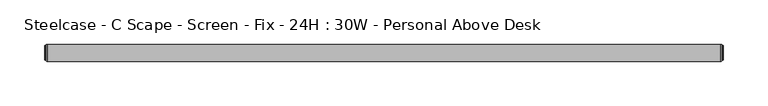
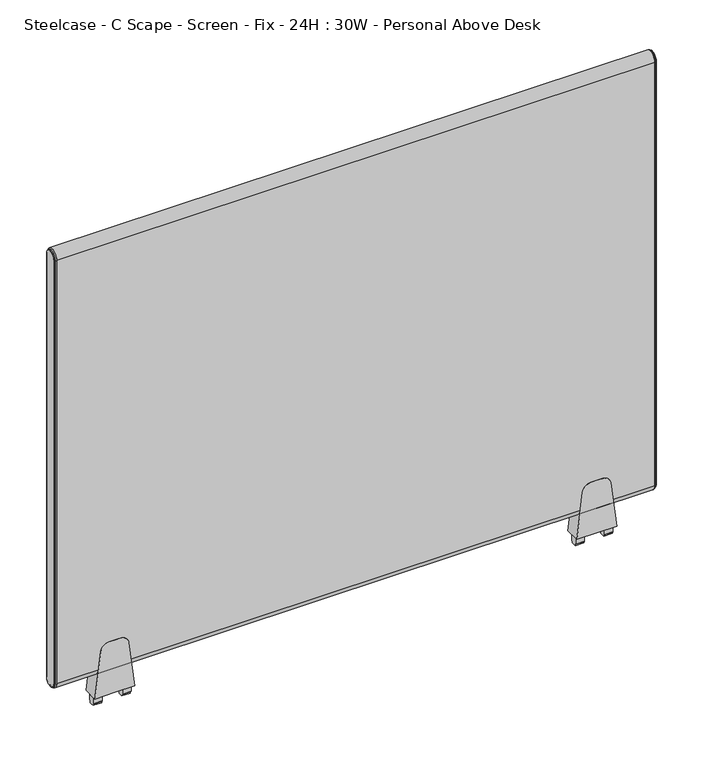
"""IFC4 building model written with IfcOpenShell, lengths in millimetres: furniture geometry, Steelcase - C Scape - Screen - Fix - 24H : 30W - Personal Above Desk."""

from ifc_helpers import new_model, si_unit, point, frame, frame_2d, origin, place, context, project, spatial, polyline, circle_curve, ellipse_curve, trimmed, segment, composite_curve, outline, extrude, source, transform, mapped, element, save
from ifc_brep_helpers import plane_surface, cylinder_surface, revolved_surface, advanced_brep


def steelcase_c_scape_screen_fix_24h_30w_personal_above_desk_dd250793(model_context):
    return source(origin(), model_context, "Body", "SolidModel", [
        extrude(outline(composite_curve([segment(polyline([(723.811112, 101.4730434), (784.1362421, 94.0661495)]), True, "CONTINUOUS"), segment(trimmed(circle_curve(frame_2d((782.8143718, 83.300233)), 10.8467645), [point((784.1362421, 94.0661495))], [point((793.6611362, 83.300233))], False, "CARTESIAN"), True, "CONTINUOUS"), segment(polyline([(793.6611362, 83.300233), (793.6611362, 76.2001674), (793.6611362, 69.1001018)]), True, "CONTINUOUS"), segment(trimmed(circle_curve(frame_2d((782.8143718, 69.1001018)), 10.8467645), [point((793.6611362, 69.1001018))], [point((784.1362421, 58.3341853))], False, "CARTESIAN"), True, "CONTINUOUS"), segment(polyline([(784.1362421, 58.3341853), (723.811112, 50.9272915), (723.811112, 76.2001674), (723.811112, 101.4730434)]), True, "CONTINUOUS")], self_intersect=False)), frame((0.0, -9.525, 0.0), z_axis=(0.0, 1.0, 0.0), x_axis=(0.0, 0.0, 1.0)), (0.0, 0.0, 1.0), 19.05),
        extrude(outline(polyline([(4.5465975, 723.811112), (4.5465975, 713.9051033), (4.0139265, 713.0186748), (2.9972008, 713.0186748), (2.9972008, 710.7834188), (0.0, 710.692), (-2.9972008, 710.7834188), (-2.9972008, 713.0186748), (-4.0139265, 713.0186748), (-4.5465975, 713.9051033), (-4.5465975, 723.811112), (0.0, 723.811112), (4.5465975, 723.811112)])), frame((88.9267162, 0.0, 0.0), z_axis=(1.0, 0.0, 0.0), x_axis=(0.0, 1.0, 0.0)), (0.0, 0.0, 1.0), 10.7813187),
        extrude(outline(polyline([(4.5465975, 723.811112), (4.5465975, 713.9051033), (4.0139265, 713.0186748), (2.9972008, 713.0186748), (2.9972008, 710.7834188), (0.0, 710.692), (-2.9972008, 710.7834188), (-2.9972008, 713.0186748), (-4.0139265, 713.0186748), (-4.5465975, 713.9051033), (-4.5465975, 723.811112), (0.0, 723.811112), (4.5465975, 723.811112)])), frame((52.6923, 0.0, 0.0), z_axis=(1.0, 0.0, 0.0), x_axis=(0.0, 1.0, 0.0)), (0.0, 0.0, 1.0), 10.7813187),
        extrude(outline(composite_curve([segment(polyline([(723.811112, 710.3107132), (784.1362421, 702.9038193)]), True, "CONTINUOUS"), segment(trimmed(circle_curve(frame_2d((782.8143718, 692.1379028)), 10.8467645), [point((784.1362421, 702.9038193))], [point((793.6611362, 692.1379028))], False, "CARTESIAN"), True, "CONTINUOUS"), segment(polyline([(793.6611362, 692.1379028), (793.6611362, 685.0378372), (793.6611362, 677.9377716)]), True, "CONTINUOUS"), segment(trimmed(circle_curve(frame_2d((782.8143718, 677.9377716)), 10.8467645), [point((793.6611362, 677.9377716))], [point((784.1362421, 667.1718551))], False, "CARTESIAN"), True, "CONTINUOUS"), segment(polyline([(784.1362421, 667.1718551), (723.811112, 659.7649612), (723.811112, 685.0378372), (723.811112, 710.3107132)]), True, "CONTINUOUS")], self_intersect=False)), frame((0.0, -9.525, 0.0), z_axis=(0.0, 1.0, 0.0), x_axis=(0.0, 0.0, 1.0)), (0.0, 0.0, 1.0), 19.05),
        extrude(outline(polyline([(4.5465975, 723.811112), (4.5465975, 713.9051033), (4.0139265, 713.0186748), (2.9972008, 713.0186748), (2.9972008, 710.7834188), (0.0, 710.692), (-2.9972008, 710.7834188), (-2.9972008, 713.0186748), (-4.0139265, 713.0186748), (-4.5465975, 713.9051033), (-4.5465975, 723.811112), (0.0, 723.811112), (4.5465975, 723.811112)])), frame((697.764386, 0.0, 0.0), z_axis=(1.0, 0.0, 0.0), x_axis=(0.0, 1.0, 0.0)), (0.0, 0.0, 1.0), 10.7813187),
        extrude(outline(polyline([(4.5465975, 723.811112), (4.5465975, 713.9051033), (4.0139265, 713.0186748), (2.9972008, 713.0186748), (2.9972008, 710.7834188), (0.0, 710.692), (-2.9972008, 710.7834188), (-2.9972008, 713.0186748), (-4.0139265, 713.0186748), (-4.5465975, 713.9051033), (-4.5465975, 723.811112), (0.0, 723.811112), (4.5465975, 723.811112)])), frame((661.5299698, 0.0, 0.0), z_axis=(1.0, 0.0, 0.0), x_axis=(0.0, 1.0, 0.0)), (0.0, 0.0, 1.0), 10.7813187),
        advanced_brep(
        [(758.4486613, -9.525, 1326.007), (758.4486613, 9.525, 1326.007), (758.4486613, 9.525, 760.857), (758.4486613, -9.525, 760.857), (761.2426613, 7.4929583, 1326.007), (761.2426613, -7.4929583, 1326.007), (761.2426613, -7.4929583, 760.857), (761.2426613, 7.4929583, 760.857), (760.7346545, -8.0009651, 1326.007), (760.7346545, 8.0009651, 1326.007), (759.4646613, 8.0009651, 1326.007), (759.4646613, -8.0009651, 1326.007), (759.4646613, -8.8204932, 1326.007), (759.4646613, 8.8204932, 1326.007), (759.4646613, -8.0009651, 760.857), (760.7346545, -8.0009651, 760.857), (759.4646613, -8.8204932, 760.857), (759.4646613, 8.0009651, 760.857), (760.7346545, 8.0009651, 760.857), (759.4646613, 8.8204932, 760.857)],
        [
            (0, 1, circle_curve(frame((758.4486613, 0.0, 1326.007), z_axis=(-1.0, 0.0, 0.0), x_axis=(0.0, 1.0, 0.0)), 9.525)),
            (1, 2),
            (2, 3, circle_curve(frame((758.4486613, 0.0, 760.857), z_axis=(-1.0, 0.0, 0.0), x_axis=(0.0, -1.0, 0.0)), 9.525)),
            (3, 0),
            (4, 5, circle_curve(frame((761.2426613, 0.0, 1326.007), z_axis=(1.0, 0.0, 0.0), x_axis=(0.0, 1.0, 0.0)), 7.4929583)),
            (5, 6),
            (6, 7, circle_curve(frame((761.2426613, 0.0, 760.857), z_axis=(1.0, 0.0, 0.0), x_axis=(0.0, -1.0, 0.0)), 7.4929583)),
            (7, 4),
            (8, 9, circle_curve(frame((760.7346545, 0.0, 1326.007), z_axis=(-1.0, 0.0, 0.0), x_axis=(0.0, 1.0, 0.0)), 8.0009651)),
            (9, 10),
            (10, 11, circle_curve(frame((759.4646613, 0.0, 1326.007), z_axis=(1.0, 0.0, 0.0), x_axis=(0.0, 1.0, 0.0)), 8.0009651)),
            (11, 8),
            (8, 5, circle_curve(frame((760.7346545, -7.4929583, 1326.007), z_axis=(0.0, 0.0, 1.0), x_axis=(0.0, -1.0, 0.0)), 0.5080068)),
            (4, 9, circle_curve(frame((760.7346545, 7.4929583, 1326.007), z_axis=(0.0, 0.0, 1.0), x_axis=(0.0, 1.0, 0.0)), 0.5080068)),
            (12, 13, circle_curve(frame((759.4646613, 0.0, 1326.007), z_axis=(-1.0, 0.0, 0.0), x_axis=(0.0, 1.0, 0.0)), 8.8204932)),
            (13, 1, circle_curve(frame((758.3806211, 8.3420139, 1326.007), z_axis=(0.0, 0.0, 1.0), x_axis=(0.0, 1.0, 0.0)), 1.1849411)),
            (0, 12, circle_curve(frame((758.3806211, -8.3420139, 1326.007), z_axis=(0.0, 0.0, 1.0), x_axis=(0.0, -1.0, 0.0)), 1.1849411)),
            (11, 14),
            (14, 15),
            (15, 8),
            (15, 6, circle_curve(frame((760.7346545, -7.4929583, 760.857), z_axis=(0.0, 0.0, 1.0), x_axis=(0.0, -1.0, 0.0)), 0.5080068)),
            (3, 16, circle_curve(frame((758.3806211, -8.3420139, 760.857), z_axis=(0.0, 0.0, 1.0), x_axis=(0.0, -1.0, 0.0)), 1.1849411)),
            (16, 12),
            (14, 17, circle_curve(frame((759.4646613, 0.0, 760.857), z_axis=(1.0, 0.0, 0.0), x_axis=(0.0, -1.0, 0.0)), 8.0009651)),
            (17, 18),
            (18, 15, circle_curve(frame((760.7346545, 0.0, 760.857), z_axis=(-1.0, 0.0, 0.0), x_axis=(0.0, -1.0, 0.0)), 8.0009651)),
            (18, 7, circle_curve(frame((760.7346545, 7.4929583, 760.857), z_axis=(0.0, 0.0, -1.0), x_axis=(0.0, 1.0, 0.0)), 0.5080068)),
            (2, 19, circle_curve(frame((758.3806211, 8.3420139, 760.857), z_axis=(0.0, 0.0, -1.0), x_axis=(0.0, 1.0, 0.0)), 1.1849411)),
            (19, 16, circle_curve(frame((759.4646613, 0.0, 760.857), z_axis=(-1.0, 0.0, 0.0), x_axis=(0.0, -1.0, 0.0)), 8.8204932)),
            (9, 18),
            (17, 10),
            (13, 19),
        ],
        [
            plane_surface(frame((758.4486613, -6.3509705, 1326.007), z_axis=(-1.0, 0.0, 0.0), x_axis=(0.0, 0.0, 1.0))),
            plane_surface(frame((761.2426613, -6.3509705, 1326.007), z_axis=(1.0, 0.0, 0.0), x_axis=(0.0, 0.0, -1.0))),
            cylinder_surface(frame((758.4486613, 0.0, 1326.007), z_axis=(1.0, 0.0, 0.0), x_axis=(0.0, 1.0, 0.0)), 8.0009651),
            revolved_surface(trimmed(ellipse_curve(frame((760.7346545, 7.4929583, 1326.007), z_axis=(0.0, 0.0, -1.0), x_axis=(0.0, 1.0, 0.0)), 0.5080068, 0.5080068), [point((760.7346545, 8.0009651, 1326.007))], [point((761.2426613, 7.4929583, 1326.007))], True, "CARTESIAN"), (758.4486613, 0.0, 1326.007), (1.0, 0.0, 0.0)),
            revolved_surface(trimmed(ellipse_curve(frame((758.3806211, 8.3420139, 1326.007), z_axis=(0.0, 0.0, -1.0), x_axis=(0.0, 1.0, 0.0)), 1.1849411, 1.1849411), [point((758.4486613, 9.525, 1326.007))], [point((759.4646613, 8.8204932, 1326.007))], True, "CARTESIAN"), (758.4486613, 0.0, 1326.007), (1.0, 0.0, 0.0)),
            plane_surface(frame((759.4646613, -8.0009651, 1326.007), z_axis=(0.0, -1.0, 0.0), x_axis=(0.0, 0.0, -1.0))),
            cylinder_surface(frame((760.7346545, -7.4929583, 1326.007), z_axis=(0.0, 0.0, 1.0), x_axis=(0.0, -1.0, 0.0)), 0.5080068),
            cylinder_surface(frame((758.3806211, -8.3420139, 1326.007), z_axis=(0.0, 0.0, 1.0), x_axis=(0.0, -1.0, 0.0)), 1.1849411),
            cylinder_surface(frame((758.4486613, 0.0, 760.857), z_axis=(1.0, 0.0, 0.0), x_axis=(0.0, -1.0, 0.0)), 8.0009651),
            revolved_surface(trimmed(ellipse_curve(frame((760.7346545, -7.4929583, 760.857), z_axis=(0.0, 0.0, 1.0), x_axis=(0.0, -1.0, 0.0)), 0.5080068, 0.5080068), [point((760.7346545, -8.0009651, 760.857))], [point((761.2426613, -7.4929583, 760.857))], True, "CARTESIAN"), (758.4486613, 0.0, 760.857), (1.0, 0.0, 0.0)),
            revolved_surface(trimmed(ellipse_curve(frame((758.3806211, -8.3420139, 760.857), z_axis=(0.0, 0.0, 1.0), x_axis=(0.0, -1.0, 0.0)), 1.1849411, 1.1849411), [point((758.4486613, -9.525, 760.857))], [point((759.4646613, -8.8204932, 760.857))], True, "CARTESIAN"), (758.4486613, 0.0, 760.857), (1.0, 0.0, 0.0)),
            plane_surface(frame((759.4646613, 8.0009651, 760.857), z_axis=(0.0, 1.0, 0.0), x_axis=(0.0, 0.0, 1.0))),
            cylinder_surface(frame((760.7346545, 7.4929583, 760.857), z_axis=(0.0, 0.0, -1.0), x_axis=(0.0, 1.0, 0.0)), 0.5080068),
            cylinder_surface(frame((758.3806211, 8.3420139, 760.857), z_axis=(0.0, 0.0, -1.0), x_axis=(0.0, 1.0, 0.0)), 1.1849411),
            plane_surface(frame((759.4646613, 8.8204932, 760.857), z_axis=(1.0, 0.0, 0.0), x_axis=(0.0, 0.0, 1.0))),
        ],
        [
            (0, [[1, 2, 3, 4]]),
            (1, [[5, 6, 7, 8]]),
            (2, [[9, 10, 11, 12]]),
            (3, [[-9, 13, -5, 14]]),
            (4, [[15, 16, -1, 17]]),
            (5, [[-12, 18, 19, 20]]),
            (6, [[-13, -20, 21, -6]]),
            (7, [[-17, -4, 22, 23]]),
            (8, [[-19, 24, 25, 26]]),
            (9, [[-21, -26, 27, -7]]),
            (10, [[-22, -3, 28, 29]]),
            (11, [[-10, 30, -25, 31]]),
            (12, [[-14, -8, -27, -30]]),
            (13, [[-16, 32, -28, -2]]),
            (14, [[-15, -23, -29, -32], [-11, -31, -24, -18]]),
        ],
    ),
        advanced_brep(
        [(2.7940155, 9.525, 1326.007), (2.7940155, -9.525, 1326.007), (2.7940155, -9.525, 760.857), (2.7940155, 9.525, 760.857), (0.0, -7.4929583, 1326.007), (0.0, 7.4929583, 1326.007), (0.0, 7.4929583, 760.857), (0.0, -7.4929583, 760.857), (1.778, 8.8204932, 1326.007), (1.778, -8.8204932, 1326.007), (0.5080068, -8.0009651, 1326.007), (0.5080068, 8.0009651, 1326.007), (1.778, -8.0009651, 1326.007), (1.778, 8.0009651, 1326.007), (1.778, -8.8204932, 760.857), (0.5080068, -8.0009651, 760.857), (1.778, -8.0009651, 760.857), (1.778, 8.8204932, 760.857), (0.5080068, 8.0009651, 760.857), (1.778, 8.0009651, 760.857)],
        [
            (0, 1, circle_curve(frame((2.7940155, 0.0, 1326.007), z_axis=(1.0, 0.0, 0.0), x_axis=(0.0, 1.0, 0.0)), 9.525)),
            (1, 2),
            (2, 3, circle_curve(frame((2.7940155, 0.0, 760.857), z_axis=(1.0, 0.0, 0.0), x_axis=(0.0, -1.0, 0.0)), 9.525)),
            (3, 0),
            (4, 5, circle_curve(frame((0.0, 0.0, 1326.007), z_axis=(-1.0, 0.0, 0.0), x_axis=(0.0, 1.0, 0.0)), 7.4929583)),
            (5, 6),
            (6, 7, circle_curve(frame((0.0, 0.0, 760.857), z_axis=(-1.0, 0.0, 0.0), x_axis=(0.0, -1.0, 0.0)), 7.4929583)),
            (7, 4),
            (0, 8, circle_curve(frame((2.8620402, 8.3420139, 1326.007), z_axis=(0.0, 0.0, 1.0), x_axis=(0.0, -1.0, 0.0)), 1.1849411)),
            (8, 9, circle_curve(frame((1.778, 0.0, 1326.007), z_axis=(1.0, 0.0, 0.0), x_axis=(0.0, 1.0, 0.0)), 8.8204932)),
            (9, 1, circle_curve(frame((2.8620402, -8.3420139, 1326.007), z_axis=(0.0, 0.0, 1.0), x_axis=(0.0, 1.0, 0.0)), 1.1849411)),
            (10, 11, circle_curve(frame((0.5080068, 0.0, 1326.007), z_axis=(-1.0, 0.0, 0.0), x_axis=(0.0, 1.0, 0.0)), 8.0009651)),
            (11, 5, circle_curve(frame((0.5080068, 7.4929583, 1326.007), z_axis=(0.0, 0.0, 1.0), x_axis=(0.0, -1.0, 0.0)), 0.5080068)),
            (4, 10, circle_curve(frame((0.5080068, -7.4929583, 1326.007), z_axis=(0.0, 0.0, 1.0), x_axis=(0.0, 1.0, 0.0)), 0.5080068)),
            (10, 12),
            (12, 13, circle_curve(frame((1.778, 0.0, 1326.007), z_axis=(-1.0, 0.0, 0.0), x_axis=(0.0, 1.0, 0.0)), 8.0009651)),
            (13, 11),
            (9, 14),
            (14, 2, circle_curve(frame((2.8620402, -8.3420139, 760.857), z_axis=(0.0, 0.0, 1.0), x_axis=(0.0, 1.0, 0.0)), 1.1849411)),
            (7, 15, circle_curve(frame((0.5080068, -7.4929583, 760.857), z_axis=(0.0, 0.0, 1.0), x_axis=(0.0, 1.0, 0.0)), 0.5080068)),
            (15, 10),
            (15, 16),
            (16, 12),
            (14, 17, circle_curve(frame((1.778, 0.0, 760.857), z_axis=(1.0, 0.0, 0.0), x_axis=(0.0, -1.0, 0.0)), 8.8204932)),
            (17, 3, circle_curve(frame((2.8620402, 8.3420139, 760.857), z_axis=(0.0, 0.0, -1.0), x_axis=(0.0, -1.0, 0.0)), 1.1849411)),
            (6, 18, circle_curve(frame((0.5080068, 7.4929583, 760.857), z_axis=(0.0, 0.0, -1.0), x_axis=(0.0, -1.0, 0.0)), 0.5080068)),
            (18, 15, circle_curve(frame((0.5080068, 0.0, 760.857), z_axis=(-1.0, 0.0, 0.0), x_axis=(0.0, -1.0, 0.0)), 8.0009651)),
            (18, 19),
            (19, 16, circle_curve(frame((1.778, 0.0, 760.857), z_axis=(-1.0, 0.0, 0.0), x_axis=(0.0, -1.0, 0.0)), 8.0009651)),
            (8, 17),
            (19, 13),
            (11, 18),
        ],
        [
            plane_surface(frame((2.7940155, -6.3509705, 1326.007), z_axis=(1.0, 0.0, 0.0), x_axis=(0.0, 0.0, -1.0))),
            plane_surface(frame((0.0, -6.3509705, 1326.007), z_axis=(-1.0, 0.0, 0.0), x_axis=(0.0, 0.0, 1.0))),
            revolved_surface(trimmed(ellipse_curve(frame((2.8620402, 8.3420139, 1326.007), z_axis=(0.0, 0.0, -1.0), x_axis=(0.0, -1.0, 0.0)), 1.1849411, 1.1849411), [point((1.778, 8.8204932, 1326.007))], [point((2.794, 9.525, 1326.007))], True, "CARTESIAN"), (2.794, 0.0, 1326.007), (1.0, 0.0, 0.0)),
            revolved_surface(trimmed(ellipse_curve(frame((0.5080068, 7.4929583, 1326.007), z_axis=(0.0, 0.0, -1.0), x_axis=(0.0, -1.0, 0.0)), 0.5080068, 0.5080068), [point((0.0, 7.4929583, 1326.007))], [point((0.5080068, 8.0009651, 1326.007))], True, "CARTESIAN"), (2.794, 0.0, 1326.007), (1.0, 0.0, 0.0)),
            cylinder_surface(frame((2.794, 0.0, 1326.007), z_axis=(1.0, 0.0, 0.0), x_axis=(0.0, 1.0, 0.0)), 8.0009651),
            cylinder_surface(frame((2.8620402, -8.3420139, 1326.007), z_axis=(0.0, 0.0, 1.0), x_axis=(0.0, 1.0, 0.0)), 1.1849411),
            cylinder_surface(frame((0.5080068, -7.4929583, 1326.007), z_axis=(0.0, 0.0, 1.0), x_axis=(0.0, 1.0, 0.0)), 0.5080068),
            plane_surface(frame((0.5080068, -8.0009651, 1326.007), z_axis=(0.0, -1.0, 0.0), x_axis=(0.0, 0.0, -1.0))),
            revolved_surface(trimmed(ellipse_curve(frame((2.8620402, -8.3420139, 760.857), z_axis=(0.0, 0.0, 1.0), x_axis=(0.0, 1.0, 0.0)), 1.1849411, 1.1849411), [point((1.778, -8.8204932, 760.857))], [point((2.794, -9.525, 760.857))], True, "CARTESIAN"), (2.794, 0.0, 760.857), (1.0, 0.0, 0.0)),
            revolved_surface(trimmed(ellipse_curve(frame((0.5080068, -7.4929583, 760.857), z_axis=(0.0, 0.0, 1.0), x_axis=(0.0, 1.0, 0.0)), 0.5080068, 0.5080068), [point((0.0, -7.4929583, 760.857))], [point((0.5080068, -8.0009651, 760.857))], True, "CARTESIAN"), (2.794, 0.0, 760.857), (1.0, 0.0, 0.0)),
            cylinder_surface(frame((2.794, 0.0, 760.857), z_axis=(1.0, 0.0, 0.0), x_axis=(0.0, -1.0, 0.0)), 8.0009651),
            plane_surface(frame((1.778, 8.0009651, 760.857), z_axis=(-1.0, 0.0, 0.0), x_axis=(0.0, 0.0, 1.0))),
            cylinder_surface(frame((2.8620402, 8.3420139, 760.857), z_axis=(0.0, 0.0, -1.0), x_axis=(0.0, -1.0, 0.0)), 1.1849411),
            cylinder_surface(frame((0.5080068, 7.4929583, 760.857), z_axis=(0.0, 0.0, -1.0), x_axis=(0.0, -1.0, 0.0)), 0.5080068),
            plane_surface(frame((0.5080068, 8.0009651, 760.857), z_axis=(0.0, 1.0, 0.0), x_axis=(0.0, 0.0, 1.0))),
        ],
        [
            (0, [[1, 2, 3, 4]]),
            (1, [[5, 6, 7, 8]]),
            (2, [[-1, 9, 10, 11]]),
            (3, [[12, 13, -5, 14]]),
            (4, [[-12, 15, 16, 17]]),
            (5, [[-11, 18, 19, -2]]),
            (6, [[-14, -8, 20, 21]]),
            (7, [[-15, -21, 22, 23]]),
            (8, [[-19, 24, 25, -3]]),
            (9, [[-20, -7, 26, 27]]),
            (10, [[-22, -27, 28, 29]]),
            (11, [[-10, 30, -24, -18], [-16, -23, -29, 31]]),
            (12, [[-9, -4, -25, -30]]),
            (13, [[-13, 32, -26, -6]]),
            (14, [[-17, -31, -28, -32]]),
        ],
    ),
        extrude(outline(composite_curve([segment(trimmed(circle_curve(frame_2d((0.0, 1326.007)), 9.525), [point((-9.525, 1326.007))], [point((9.525, 1326.007))], False, "CARTESIAN"), True, "CONTINUOUS"), segment(polyline([(9.525, 1326.007), (9.525, 760.857)]), True, "CONTINUOUS"), segment(trimmed(circle_curve(frame_2d((0.0, 760.857)), 9.525), [point((9.525, 760.857))], [point((-9.525, 760.857))], False, "CARTESIAN"), True, "CONTINUOUS"), segment(polyline([(-9.525, 760.857), (-9.525, 1326.007)]), True, "CONTINUOUS")], self_intersect=False)), frame((2.794, 0.0, 0.0), z_axis=(1.0, 0.0, 0.0), x_axis=(0.0, 1.0, 0.0)), (0.0, 0.0, 1.0), 755.6546613),
    ])


if __name__ == "__main__":
    model = new_model("IFC4")
    model_context = context("Model", 3, world=origin())
    ifc_project = project(units=[si_unit("LENGTHUNIT", "METRE", prefix="MILLI")], contexts=[model_context])
    site = spatial("IfcSite", under=ifc_project)
    building = spatial("IfcBuilding", under=site)
    placement = place(None, origin())
    steelcase_c_scape_screen_fix_24h_30w_personal_above_desk_shape = steelcase_c_scape_screen_fix_24h_30w_personal_above_desk_dd250793(model_context)
    element("IfcFurniture", 1, ObjectType="Steelcase - C Scape - Screen - Fix - 24H : 30W - Personal Above Desk", at=placement, inside=building, context=model_context, shape_type="MappedRepresentation", body=[
        mapped(steelcase_c_scape_screen_fix_24h_30w_personal_above_desk_shape, transform((0.0, 0.0, 0.0), x_axis=(1.0, 0.0, 0.0), y_axis=(0.0, 1.0, 0.0), z_axis=(0.0, 0.0, 1.0))),
    ])
    save(model, "model.ifc")
